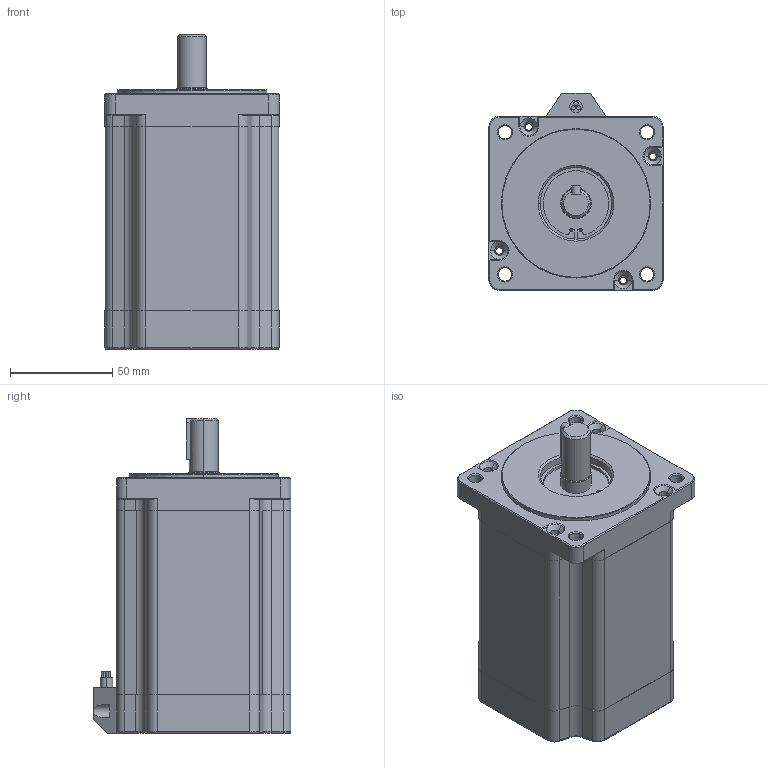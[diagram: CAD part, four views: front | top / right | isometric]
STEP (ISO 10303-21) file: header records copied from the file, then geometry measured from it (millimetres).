
FILE_DESCRIPTION (( 'STEP AP214' ), '1' );
FILE_NAME ('FHB3913梓袧.STEP', '2020-03-05T02:55:28', ( 'hzmg' ), ( '' ), 'SwSTEP 2.0', 'SolidWorks 2016', '' );
FILE_SCHEMA (( 'AUTOMOTIVE_DESIGN' ));
Length unit declared in the file: millimetre
Products named in the file (1): FHB3913梓袧
Bounding box: 85.1 x 96.6 x 154 mm (x, y, z)
Volume: 811092.4 mm3; surface area: 63538.4 mm2
Topology: 1 solids, 1 shells, 289 faces, 722 edges, 441 vertices
Faces by surface type: plane 112, cylinder 111, cone 54, torus 12
Entity records: 11190 total; most frequent: DIRECTION 1570, CARTESIAN_POINT 1489, ORIENTED_EDGE 1436, EDGE_CURVE 718, AXIS2_PLACEMENT_3D 576, VERTEX_POINT 439, VECTOR 418, LINE 418
